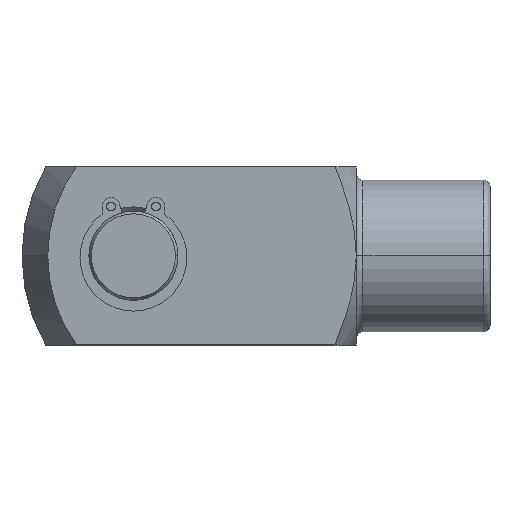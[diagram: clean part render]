
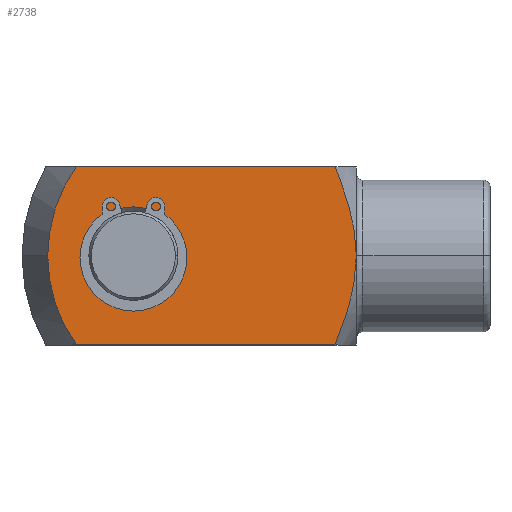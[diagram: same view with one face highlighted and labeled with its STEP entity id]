
A CAD part, top view. The second image highlights one B-rep face of the part: STEP entity #2738.
In plain terms, the highlighted planar face has unit normal (0, 0, 1).
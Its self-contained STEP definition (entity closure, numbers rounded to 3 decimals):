
#236 = VERTEX_POINT ( 'NONE', #1055 ) ;
#238 = VERTEX_POINT ( 'NONE', #1116 ) ;
#1055 = CARTESIAN_POINT ( 'NONE',  ( -92.775, -20., 20. ) ) ;
#1116 = CARTESIAN_POINT ( 'NONE',  ( -99.226, 0., 20. ) ) ;
#1839 = CARTESIAN_POINT ( 'NONE',  ( -34.139, 18.399, 20. ) ) ;
#1840 = CARTESIAN_POINT ( 'NONE',  ( -34.457, 19.202, 20. ) ) ;
#1841 = CARTESIAN_POINT ( 'NONE',  ( -34.783, 20., 20. ) ) ;
#1842 = B_SPLINE_CURVE_WITH_KNOTS ( 'NONE', 3,
 ( #1884, #1883, #1882, #1881, #1880, #1879, #1878, #1877, #1876, #1875, #1874, #1873 ),
 .UNSPECIFIED., .F., .F.,
 ( 4, 2, 2, 2, 2, 4 ),
 ( 0.081, 0.086, 0.091, 0.096, 0.099, 0.102 ),
 .UNSPECIFIED. ) ;
#1843 = CARTESIAN_POINT ( 'NONE',  ( -34.783, 20., 20. ) ) ;
#1844 = B_SPLINE_CURVE_WITH_KNOTS ( 'NONE', 3,
 ( #1841, #1840, #1839, #1900, #1899, #1898, #1897, #1896, #1895, #1894, #1893, #1892, #1891, #1890, #1889, #1888 ),
 .UNSPECIFIED., .F., .F.,
 ( 4, 2, 2, 2, 2, 2, 2, 4 ),
 ( 0.06, 0.063, 0.065, 0.071, 0.076, 0.078, 0.08, 0.081 ),
 .UNSPECIFIED. ) ;
#1845 = CARTESIAN_POINT ( 'NONE',  ( -34.783, -20., 20. ) ) ;
#1846 = DIRECTION ( 'NONE',  ( 1., 0., 0. ) ) ;
#1847 = DIRECTION ( 'NONE',  ( 0., 0., -1. ) ) ;
#1848 = CARTESIAN_POINT ( 'NONE',  ( -80., 0., 20. ) ) ;
#1849 = AXIS2_PLACEMENT_3D ( 'NONE', #1848, #1847, #1846 ) ;
#1850 = CIRCLE ( 'NONE', #1849, 11. ) ;
#1856 = DIRECTION ( 'NONE',  ( 1., 0., 0. ) ) ;
#1857 = VECTOR ( 'NONE', #1856, 1000. ) ;
#1858 = CARTESIAN_POINT ( 'NONE',  ( -105., 20., 20. ) ) ;
#1859 = LINE ( 'NONE', #1858, #1857 ) ;
#1865 = CARTESIAN_POINT ( 'NONE',  ( -92.775, 20., 20. ) ) ;
#1866 = DIRECTION ( 'NONE',  ( 1., 0., 0. ) ) ;
#1867 = DIRECTION ( 'NONE',  ( 0., 0., 1. ) ) ;
#1868 = CARTESIAN_POINT ( 'NONE',  ( -65., 0., 20. ) ) ;
#1869 = AXIS2_PLACEMENT_3D ( 'NONE', #1868, #1867, #1866 ) ;
#1870 = CIRCLE ( 'NONE', #1869, 34.226 ) ;
#1871 = DIRECTION ( 'NONE',  ( 1., 0., 0. ) ) ;
#1872 = VECTOR ( 'NONE', #1871, 1000. ) ;
#1873 = CARTESIAN_POINT ( 'NONE',  ( -34.783, -20., 20. ) ) ;
#1874 = CARTESIAN_POINT ( 'NONE',  ( -34.456, -19.199, 20. ) ) ;
#1875 = CARTESIAN_POINT ( 'NONE',  ( -34.137, -18.395, 20. ) ) ;
#1876 = CARTESIAN_POINT ( 'NONE',  ( -33.52, -16.776, 20. ) ) ;
#1877 = CARTESIAN_POINT ( 'NONE',  ( -33.222, -15.961, 20. ) ) ;
#1878 = CARTESIAN_POINT ( 'NONE',  ( -32.366, -13.508, 20. ) ) ;
#1879 = CARTESIAN_POINT ( 'NONE',  ( -31.851, -11.861, 20. ) ) ;
#1880 = CARTESIAN_POINT ( 'NONE',  ( -30.979, -8.538, 20. ) ) ;
#1881 = CARTESIAN_POINT ( 'NONE',  ( -30.624, -6.861, 20. ) ) ;
#1882 = CARTESIAN_POINT ( 'NONE',  ( -30.133, -3.465, 20. ) ) ;
#1883 = CARTESIAN_POINT ( 'NONE',  ( -30., -1.745, 20. ) ) ;
#1884 = CARTESIAN_POINT ( 'NONE',  ( -30., 0., 20. ) ) ;
#1885 = CARTESIAN_POINT ( 'NONE',  ( -105., -20., 20. ) ) ;
#1886 = LINE ( 'NONE', #1885, #1872 ) ;
#1887 = CARTESIAN_POINT ( 'NONE',  ( -30., 0., 20. ) ) ;
#1888 = CARTESIAN_POINT ( 'NONE',  ( -30., 0., 20. ) ) ;
#1889 = CARTESIAN_POINT ( 'NONE',  ( -30., 0.435, 20. ) ) ;
#1890 = CARTESIAN_POINT ( 'NONE',  ( -30.008, 0.872, 20. ) ) ;
#1891 = CARTESIAN_POINT ( 'NONE',  ( -30.041, 1.742, 20. ) ) ;
#1892 = CARTESIAN_POINT ( 'NONE',  ( -30.065, 2.175, 20. ) ) ;
#1893 = CARTESIAN_POINT ( 'NONE',  ( -30.162, 3.47, 20. ) ) ;
#1894 = CARTESIAN_POINT ( 'NONE',  ( -30.258, 4.326, 20. ) ) ;
#1895 = CARTESIAN_POINT ( 'NONE',  ( -30.627, 6.878, 20. ) ) ;
#1896 = CARTESIAN_POINT ( 'NONE',  ( -30.983, 8.556, 20. ) ) ;
#1897 = CARTESIAN_POINT ( 'NONE',  ( -31.856, 11.878, 20. ) ) ;
#1898 = CARTESIAN_POINT ( 'NONE',  ( -32.371, 13.522, 20. ) ) ;
#1899 = CARTESIAN_POINT ( 'NONE',  ( -33.225, 15.971, 20. ) ) ;
#1900 = CARTESIAN_POINT ( 'NONE',  ( -33.523, 16.784, 20. ) ) ;
#1972 = DIRECTION ( 'NONE',  ( 1., 0., 0. ) ) ;
#1973 = DIRECTION ( 'NONE',  ( 0., 0., 1. ) ) ;
#1974 = CARTESIAN_POINT ( 'NONE',  ( -105., -20., 20. ) ) ;
#1976 = AXIS2_PLACEMENT_3D ( 'NONE', #1974, #1973, #1972 ) ;
#1977 = PLANE ( 'NONE',  #1976 ) ;
#1978 = FACE_OUTER_BOUND ( 'NONE', #2688, .T. ) ;
#1979 = FACE_BOUND ( 'NONE', #2692, .T. ) ;
#2064 = CARTESIAN_POINT ( 'NONE',  ( -69., 0., 20. ) ) ;
#2065 = CARTESIAN_POINT ( 'NONE',  ( -91., 0., 20. ) ) ;
#2070 = DIRECTION ( 'NONE',  ( 1., 0., 0. ) ) ;
#2071 = DIRECTION ( 'NONE',  ( 0., 0., -1. ) ) ;
#2072 = CARTESIAN_POINT ( 'NONE',  ( -80., 0., 20. ) ) ;
#2073 = AXIS2_PLACEMENT_3D ( 'NONE', #2072, #2071, #2070 ) ;
#2074 = CIRCLE ( 'NONE', #2073, 11. ) ;
#2094 = DIRECTION ( 'NONE',  ( 1., 0., 0. ) ) ;
#2095 = DIRECTION ( 'NONE',  ( 0., 0., 1. ) ) ;
#2096 = CARTESIAN_POINT ( 'NONE',  ( -65., 0., 20. ) ) ;
#2097 = AXIS2_PLACEMENT_3D ( 'NONE', #2096, #2095, #2094 ) ;
#2098 = CIRCLE ( 'NONE', #2097, 34.226 ) ;
#2683 = ORIENTED_EDGE ( 'NONE', *, *, #2684, .F. ) ;
#2684 = EDGE_CURVE ( 'NONE', #2705, #2702, #1859, .T. ) ;
#2688 = EDGE_LOOP ( 'NONE', ( #2683, #2700, #2699, #2701, #2696, #2694 ) ) ;
#2689 = ORIENTED_EDGE ( 'NONE', *, *, #2773, .T. ) ;
#2690 = EDGE_CURVE ( 'NONE', #2776, #2777, #1850, .T. ) ;
#2691 = ORIENTED_EDGE ( 'NONE', *, *, #2690, .T. ) ;
#2692 = EDGE_LOOP ( 'NONE', ( #2689, #2691 ) ) ;
#2693 = EDGE_CURVE ( 'NONE', #2702, #2698, #1844, .T. ) ;
#2694 = ORIENTED_EDGE ( 'NONE', *, *, #2693, .F. ) ;
#2695 = VERTEX_POINT ( 'NONE', #1845 ) ;
#2696 = ORIENTED_EDGE ( 'NONE', *, *, #2697, .F. ) ;
#2697 = EDGE_CURVE ( 'NONE', #2698, #2695, #1842, .T. ) ;
#2698 = VERTEX_POINT ( 'NONE', #1887 ) ;
#2699 = ORIENTED_EDGE ( 'NONE', *, *, #2791, .T. ) ;
#2700 = ORIENTED_EDGE ( 'NONE', *, *, #2704, .T. ) ;
#2701 = ORIENTED_EDGE ( 'NONE', *, *, #2703, .T. ) ;
#2702 = VERTEX_POINT ( 'NONE', #1843 ) ;
#2703 = EDGE_CURVE ( 'NONE', #236, #2695, #1886, .T. ) ;
#2704 = EDGE_CURVE ( 'NONE', #2705, #238, #1870, .T. ) ;
#2705 = VERTEX_POINT ( 'NONE', #1865 ) ;
#2738 = ADVANCED_FACE ( 'NONE', ( #1979, #1978 ), #1977, .T. ) ;
#2773 = EDGE_CURVE ( 'NONE', #2777, #2776, #2074, .T. ) ;
#2776 = VERTEX_POINT ( 'NONE', #2065 ) ;
#2777 = VERTEX_POINT ( 'NONE', #2064 ) ;
#2791 = EDGE_CURVE ( 'NONE', #238, #236, #2098, .T. ) ;
